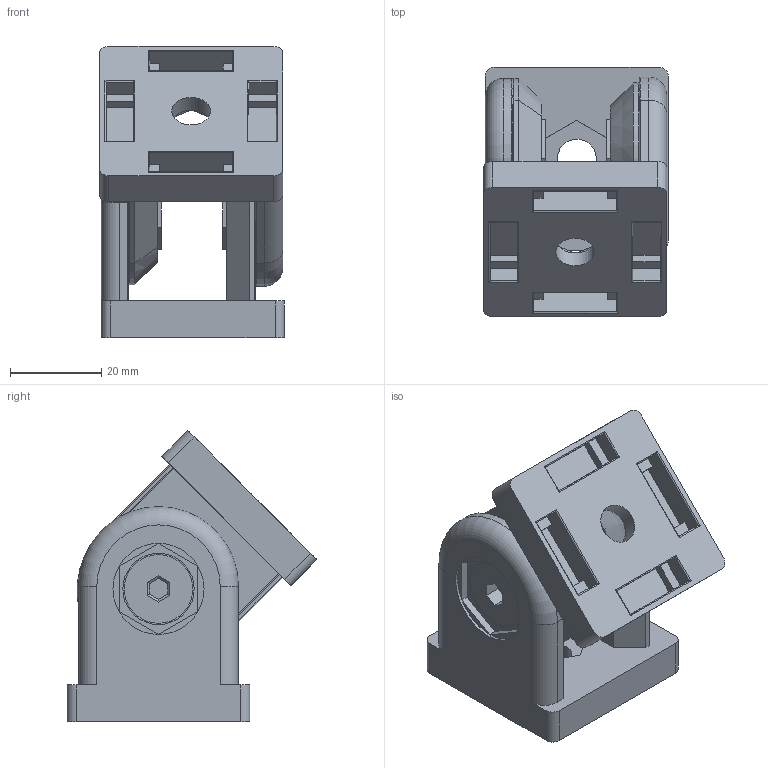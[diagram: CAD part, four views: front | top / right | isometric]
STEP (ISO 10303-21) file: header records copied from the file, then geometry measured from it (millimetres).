
FILE_DESCRIPTION((''),'2;1');
FILE_NAME('E:\catalogue and flyer\Profile catalogue 2015\Accessories JE info\Accessories-JE step file 31MAr16\JE-KJ4040-8.stp','2016-04-07T11:27:40',('h029'),(''),'Autodesk Inventor 11','Autodesk Inventor 11','');
FILE_SCHEMA(('AUTOMOTIVE_DESIGN { 1 0 10303 214 1 1 1 1 }'));
Length unit declared in the file: millimetre
Products named in the file (5): Knuckle Joint (JE-KJ4040-8); Knuckle; Hex Nut; Washer; M8 C'SUNK
Assembly tree (6 placements, depth 2):
  Knuckle Joint (JE-KJ4040-8)
    Knuckle  x2
    Hex Nut  x2
    Washer  x2
  M8 C'SUNK
Bounding box: 40.35 x 54.65 x 63.65 mm (x, y, z)
Volume: 44318.2 mm3; surface area: 26200.1 mm2
Topology: 8 solids, 8 shells, 300 faces, 704 edges, 440 vertices
Faces by surface type: plane 206, cylinder 72, cone 8, bspline 8, torus 6
Full cylindrical faces by diameter (mm): 8 x2, 12.9 x2, 13 x2, 15.6 x2, 19.919 x2, 21 x2, 21.2 x2
Entity records: 4346 total; most frequent: CARTESIAN_POINT 779, DIRECTION 727, ORIENTED_EDGE 666, EDGE_CURVE 333, VECTOR 257, LINE 257, AXIS2_PLACEMENT_3D 235, VERTEX_POINT 215
